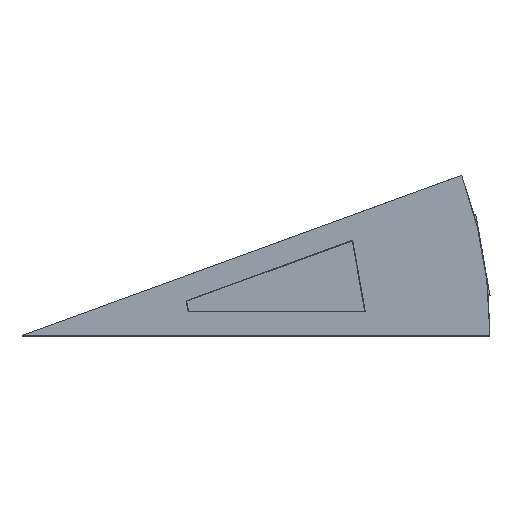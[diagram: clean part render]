
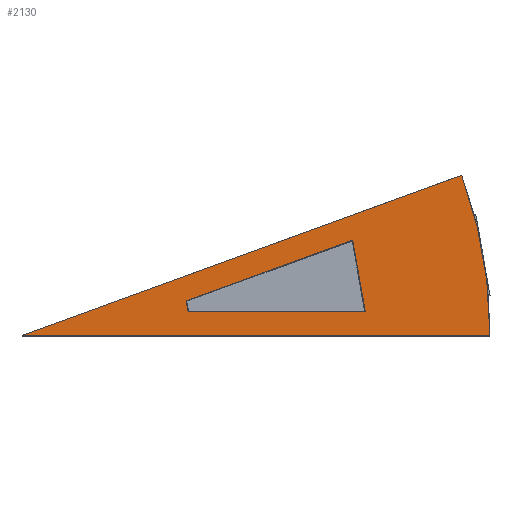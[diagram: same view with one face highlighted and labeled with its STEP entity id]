
A CAD part, top view. The second image highlights one B-rep face of the part: STEP entity #2130.
In plain terms, the highlighted planar face has unit normal (0, 0, 1).
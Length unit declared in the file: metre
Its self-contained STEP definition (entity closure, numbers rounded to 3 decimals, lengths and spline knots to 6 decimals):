
#103 = PLANE('',#104);
#104 = AXIS2_PLACEMENT_3D('',#105,#106,#107);
#105 = CARTESIAN_POINT('',(13.284395,0.,-4.069578));
#106 = DIRECTION('',(-0.,-1.,-0.));
#107 = DIRECTION('',(0.,0.,-1.));
#129 = PLANE('',#130);
#130 = AXIS2_PLACEMENT_3D('',#131,#132,#133);
#131 = CARTESIAN_POINT('',(12.483248,4.543531,-4.069578
    ));
#132 = DIRECTION('',(0.342,-0.94,-0.));
#133 = DIRECTION('',(0.,0.,-1.));
#756 = VERTEX_POINT('',#757);
#757 = CARTESIAN_POINT('',(19.313469,0.,11.320089));
#771 = CYLINDRICAL_SURFACE('',#772,19.313469);
#772 = AXIS2_PLACEMENT_3D('',#773,#774,#775);
#773 = CARTESIAN_POINT('',(0.,0.,-15.6));
#774 = DIRECTION('',(0.,0.,1.));
#775 = DIRECTION('',(1.,0.,-0.));
#783 = EDGE_CURVE('',#756,#784,#786,.T.);
#784 = VERTEX_POINT('',#785);
#785 = CARTESIAN_POINT('',(0.,0.,11.320089));
#786 = SURFACE_CURVE('',#787,(#791,#798),.PCURVE_S1.);
#787 = LINE('',#788,#789);
#788 = CARTESIAN_POINT('',(19.313469,0.,11.320089));
#789 = VECTOR('',#790,1.);
#790 = DIRECTION('',(-1.,0.,0.));
#791 = PCURVE('',#103,#792);
#792 = DEFINITIONAL_REPRESENTATION('',(#793),#797);
#793 = LINE('',#794,#795);
#794 = CARTESIAN_POINT('',(-15.39,6.029));
#795 = VECTOR('',#796,1.);
#796 = DIRECTION('',(0.,-1.));
#797 = ( GEOMETRIC_REPRESENTATION_CONTEXT(2) 
PARAMETRIC_REPRESENTATION_CONTEXT() REPRESENTATION_CONTEXT('2D SPACE',''
  ) );
#798 = PCURVE('',#799,#804);
#799 = PLANE('',#800);
#800 = AXIS2_PLACEMENT_3D('',#801,#802,#803);
#801 = CARTESIAN_POINT('',(0.,0.,11.320089));
#802 = DIRECTION('',(0.,0.,1.));
#803 = DIRECTION('',(1.,0.,-0.));
#804 = DEFINITIONAL_REPRESENTATION('',(#805),#809);
#805 = LINE('',#806,#807);
#806 = CARTESIAN_POINT('',(19.313,0.));
#807 = VECTOR('',#808,1.);
#808 = DIRECTION('',(-1.,0.));
#809 = ( GEOMETRIC_REPRESENTATION_CONTEXT(2) 
PARAMETRIC_REPRESENTATION_CONTEXT() REPRESENTATION_CONTEXT('2D SPACE',''
  ) );
#975 = VERTEX_POINT('',#976);
#976 = CARTESIAN_POINT('',(18.148724,6.605595,
    11.320089));
#997 = EDGE_CURVE('',#975,#784,#998,.T.);
#998 = SURFACE_CURVE('',#999,(#1003,#1010),.PCURVE_S1.);
#999 = LINE('',#1000,#1001);
#1000 = CARTESIAN_POINT('',(18.148724,6.605595,
    11.320089));
#1001 = VECTOR('',#1002,1.);
#1002 = DIRECTION('',(-0.94,-0.342,0.));
#1003 = PCURVE('',#129,#1004);
#1004 = DEFINITIONAL_REPRESENTATION('',(#1005),#1009);
#1005 = LINE('',#1006,#1007);
#1006 = CARTESIAN_POINT('',(-15.39,6.029));
#1007 = VECTOR('',#1008,1.);
#1008 = DIRECTION('',(0.,-1.));
#1009 = ( GEOMETRIC_REPRESENTATION_CONTEXT(2) 
PARAMETRIC_REPRESENTATION_CONTEXT() REPRESENTATION_CONTEXT('2D SPACE',''
  ) );
#1010 = PCURVE('',#799,#1011);
#1011 = DEFINITIONAL_REPRESENTATION('',(#1012),#1016);
#1012 = LINE('',#1013,#1014);
#1013 = CARTESIAN_POINT('',(18.149,6.606));
#1014 = VECTOR('',#1015,1.);
#1015 = DIRECTION('',(-0.94,-0.342));
#1016 = ( GEOMETRIC_REPRESENTATION_CONTEXT(2) 
PARAMETRIC_REPRESENTATION_CONTEXT() REPRESENTATION_CONTEXT('2D SPACE',''
  ) );
#1772 = EDGE_CURVE('',#756,#975,#1773,.T.);
#1773 = SURFACE_CURVE('',#1774,(#1779,#1786),.PCURVE_S1.);
#1774 = CIRCLE('',#1775,19.313469);
#1775 = AXIS2_PLACEMENT_3D('',#1776,#1777,#1778);
#1776 = CARTESIAN_POINT('',(0.,0.,11.320089));
#1777 = DIRECTION('',(0.,0.,1.));
#1778 = DIRECTION('',(1.,0.,-0.));
#1779 = PCURVE('',#771,#1780);
#1780 = DEFINITIONAL_REPRESENTATION('',(#1781),#1785);
#1781 = LINE('',#1782,#1783);
#1782 = CARTESIAN_POINT('',(0.,26.92));
#1783 = VECTOR('',#1784,1.);
#1784 = DIRECTION('',(1.,0.));
#1785 = ( GEOMETRIC_REPRESENTATION_CONTEXT(2) 
PARAMETRIC_REPRESENTATION_CONTEXT() REPRESENTATION_CONTEXT('2D SPACE',''
  ) );
#1786 = PCURVE('',#799,#1787);
#1787 = DEFINITIONAL_REPRESENTATION('',(#1788),#1792);
#1788 = CIRCLE('',#1789,19.313469);
#1789 = AXIS2_PLACEMENT_2D('',#1790,#1791);
#1790 = CARTESIAN_POINT('',(0.,0.));
#1791 = DIRECTION('',(1.,0.));
#1792 = ( GEOMETRIC_REPRESENTATION_CONTEXT(2) 
PARAMETRIC_REPRESENTATION_CONTEXT() REPRESENTATION_CONTEXT('2D SPACE',''
  ) );
#2130 = ADVANCED_FACE('',(#2131,#2136),#799,.T.);
#2131 = FACE_BOUND('',#2132,.T.);
#2132 = EDGE_LOOP('',(#2133,#2134,#2135));
#2133 = ORIENTED_EDGE('',*,*,#1772,.T.);
#2134 = ORIENTED_EDGE('',*,*,#997,.T.);
#2135 = ORIENTED_EDGE('',*,*,#783,.F.);
#2136 = FACE_BOUND('',#2137,.T.);
#2137 = EDGE_LOOP('',(#2138,#2168,#2196,#2224));
#2138 = ORIENTED_EDGE('',*,*,#2139,.F.);
#2139 = EDGE_CURVE('',#2140,#2142,#2144,.T.);
#2140 = VERTEX_POINT('',#2141);
#2141 = CARTESIAN_POINT('',(6.853246,0.9741,11.320089));
#2142 = VERTEX_POINT('',#2143);
#2143 = CARTESIAN_POINT('',(14.169888,0.9741,11.320089));
#2144 = SURFACE_CURVE('',#2145,(#2149,#2156),.PCURVE_S1.);
#2145 = LINE('',#2146,#2147);
#2146 = CARTESIAN_POINT('',(7.042043,0.9741,11.320089));
#2147 = VECTOR('',#2148,1.);
#2148 = DIRECTION('',(1.,0.,0.));
#2149 = PCURVE('',#799,#2150);
#2150 = DEFINITIONAL_REPRESENTATION('',(#2151),#2155);
#2151 = LINE('',#2152,#2153);
#2152 = CARTESIAN_POINT('',(7.042,0.974));
#2153 = VECTOR('',#2154,1.);
#2154 = DIRECTION('',(1.,0.));
#2155 = ( GEOMETRIC_REPRESENTATION_CONTEXT(2) 
PARAMETRIC_REPRESENTATION_CONTEXT() REPRESENTATION_CONTEXT('2D SPACE',''
  ) );
#2156 = PCURVE('',#2157,#2162);
#2157 = PLANE('',#2158);
#2158 = AXIS2_PLACEMENT_3D('',#2159,#2160,#2161);
#2159 = CARTESIAN_POINT('',(6.853246,0.9741,11.170089));
#2160 = DIRECTION('',(0.,1.,0.));
#2161 = DIRECTION('',(1.,0.,0.));
#2162 = DEFINITIONAL_REPRESENTATION('',(#2163),#2167);
#2163 = LINE('',#2164,#2165);
#2164 = CARTESIAN_POINT('',(0.189,-0.15));
#2165 = VECTOR('',#2166,1.);
#2166 = DIRECTION('',(1.,0.));
#2167 = ( GEOMETRIC_REPRESENTATION_CONTEXT(2) 
PARAMETRIC_REPRESENTATION_CONTEXT() REPRESENTATION_CONTEXT('2D SPACE',''
  ) );
#2168 = ORIENTED_EDGE('',*,*,#2169,.F.);
#2169 = EDGE_CURVE('',#2170,#2140,#2172,.T.);
#2170 = VERTEX_POINT('',#2171);
#2171 = CARTESIAN_POINT('',(6.773106,1.428594,
    11.320089));
#2172 = SURFACE_CURVE('',#2173,(#2177,#2184),.PCURVE_S1.);
#2173 = LINE('',#2174,#2175);
#2174 = CARTESIAN_POINT('',(6.805891,1.242664,
    11.320089));
#2175 = VECTOR('',#2176,1.);
#2176 = DIRECTION('',(0.174,-0.985,0.));
#2177 = PCURVE('',#799,#2178);
#2178 = DEFINITIONAL_REPRESENTATION('',(#2179),#2183);
#2179 = LINE('',#2180,#2181);
#2180 = CARTESIAN_POINT('',(6.806,1.243));
#2181 = VECTOR('',#2182,1.);
#2182 = DIRECTION('',(0.174,-0.985));
#2183 = ( GEOMETRIC_REPRESENTATION_CONTEXT(2) 
PARAMETRIC_REPRESENTATION_CONTEXT() REPRESENTATION_CONTEXT('2D SPACE',''
  ) );
#2184 = PCURVE('',#2185,#2190);
#2185 = PLANE('',#2186);
#2186 = AXIS2_PLACEMENT_3D('',#2187,#2188,#2189);
#2187 = CARTESIAN_POINT('',(6.773106,1.428594,
    11.170089));
#2188 = DIRECTION('',(0.985,0.174,0.));
#2189 = DIRECTION('',(0.174,-0.985,0.));
#2190 = DEFINITIONAL_REPRESENTATION('',(#2191),#2195);
#2191 = LINE('',#2192,#2193);
#2192 = CARTESIAN_POINT('',(0.189,-0.15));
#2193 = VECTOR('',#2194,1.);
#2194 = DIRECTION('',(1.,0.));
#2195 = ( GEOMETRIC_REPRESENTATION_CONTEXT(2) 
PARAMETRIC_REPRESENTATION_CONTEXT() REPRESENTATION_CONTEXT('2D SPACE',''
  ) );
#2196 = ORIENTED_EDGE('',*,*,#2197,.F.);
#2197 = EDGE_CURVE('',#2198,#2170,#2200,.T.);
#2198 = VERTEX_POINT('',#2199);
#2199 = CARTESIAN_POINT('',(13.648501,3.931033,
    11.320089));
#2200 = SURFACE_CURVE('',#2201,(#2205,#2212),.PCURVE_S1.);
#2201 = LINE('',#2202,#2203);
#2202 = CARTESIAN_POINT('',(13.396528,3.839322,
    11.320089));
#2203 = VECTOR('',#2204,1.);
#2204 = DIRECTION('',(-0.94,-0.342,0.));
#2205 = PCURVE('',#799,#2206);
#2206 = DEFINITIONAL_REPRESENTATION('',(#2207),#2211);
#2207 = LINE('',#2208,#2209);
#2208 = CARTESIAN_POINT('',(13.397,3.839));
#2209 = VECTOR('',#2210,1.);
#2210 = DIRECTION('',(-0.94,-0.342));
#2211 = ( GEOMETRIC_REPRESENTATION_CONTEXT(2) 
PARAMETRIC_REPRESENTATION_CONTEXT() REPRESENTATION_CONTEXT('2D SPACE',''
  ) );
#2212 = PCURVE('',#2213,#2218);
#2213 = PLANE('',#2214);
#2214 = AXIS2_PLACEMENT_3D('',#2215,#2216,#2217);
#2215 = CARTESIAN_POINT('',(13.648501,3.931033,
    11.170089));
#2216 = DIRECTION('',(0.342,-0.94,0.));
#2217 = DIRECTION('',(-0.94,-0.342,0.));
#2218 = DEFINITIONAL_REPRESENTATION('',(#2219),#2223);
#2219 = LINE('',#2220,#2221);
#2220 = CARTESIAN_POINT('',(0.268,-0.15));
#2221 = VECTOR('',#2222,1.);
#2222 = DIRECTION('',(1.,0.));
#2223 = ( GEOMETRIC_REPRESENTATION_CONTEXT(2) 
PARAMETRIC_REPRESENTATION_CONTEXT() REPRESENTATION_CONTEXT('2D SPACE',''
  ) );
#2224 = ORIENTED_EDGE('',*,*,#2225,.F.);
#2225 = EDGE_CURVE('',#2142,#2198,#2226,.T.);
#2226 = SURFACE_CURVE('',#2227,(#2231,#2238),.PCURVE_S1.);
#2227 = LINE('',#2228,#2229);
#2228 = CARTESIAN_POINT('',(14.123326,1.238171,
    11.320089));
#2229 = VECTOR('',#2230,1.);
#2230 = DIRECTION('',(-0.174,0.985,0.));
#2231 = PCURVE('',#799,#2232);
#2232 = DEFINITIONAL_REPRESENTATION('',(#2233),#2237);
#2233 = LINE('',#2234,#2235);
#2234 = CARTESIAN_POINT('',(14.123,1.238));
#2235 = VECTOR('',#2236,1.);
#2236 = DIRECTION('',(-0.174,0.985));
#2237 = ( GEOMETRIC_REPRESENTATION_CONTEXT(2) 
PARAMETRIC_REPRESENTATION_CONTEXT() REPRESENTATION_CONTEXT('2D SPACE',''
  ) );
#2238 = PCURVE('',#2239,#2244);
#2239 = PLANE('',#2240);
#2240 = AXIS2_PLACEMENT_3D('',#2241,#2242,#2243);
#2241 = CARTESIAN_POINT('',(14.169888,0.9741,11.170089));
#2242 = DIRECTION('',(-0.985,-0.174,0.));
#2243 = DIRECTION('',(-0.174,0.985,0.));
#2244 = DEFINITIONAL_REPRESENTATION('',(#2245),#2249);
#2245 = LINE('',#2246,#2247);
#2246 = CARTESIAN_POINT('',(0.268,-0.15));
#2247 = VECTOR('',#2248,1.);
#2248 = DIRECTION('',(1.,0.));
#2249 = ( GEOMETRIC_REPRESENTATION_CONTEXT(2) 
PARAMETRIC_REPRESENTATION_CONTEXT() REPRESENTATION_CONTEXT('2D SPACE',''
  ) );
